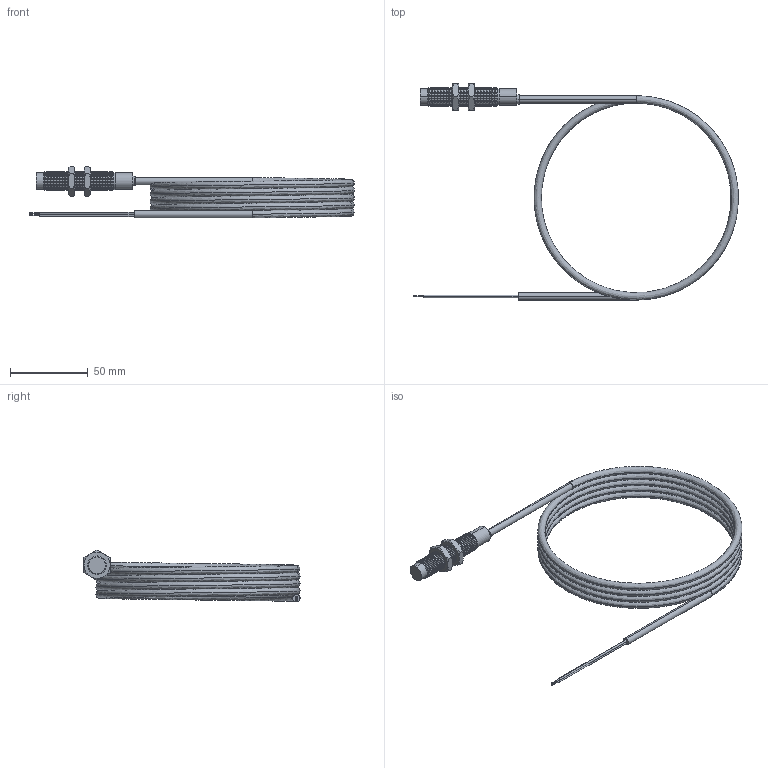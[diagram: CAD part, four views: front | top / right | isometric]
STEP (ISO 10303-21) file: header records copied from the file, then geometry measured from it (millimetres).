
FILE_DESCRIPTION (( 'STEP AP203' ), '1' );
FILE_NAME ('90-XXXX-013.STEP', '2015-10-28T13:12:39', ( 'Sam' ), ( 'Spade' ), 'SwSTEP 2.0', 'SolidWorks 2002296', '' );
FILE_SCHEMA (( 'CONFIG_CONTROL_DESIGN' ));
Length unit declared in the file: inch
Products named in the file (13): 90-XXXX-013; Imported120; Imported119; Imported127; Imported126; Imported125; Imported121; Imported129; Imported130; Imported123; Imported124; Imported128; Imported122
Assembly tree (12 placements, depth 2):
  90-XXXX-013
    Imported122
    Imported124
    Imported128
    Imported119
    Imported129
    Imported123
    Imported126
    Imported125
    Imported121
    Imported120
    Imported130
    Imported127
Bounding box: 209.36 x 139.31 x 33.35 mm (x, y, z)
Volume: 41795.7 mm3; surface area: 34913 mm2
Topology: 12 solids, 12 shells, 413 faces, 814 edges, 428 vertices
Faces by surface type: cone 246, cylinder 116, plane 39, bspline 12
Entity records: 13328 total; most frequent: CARTESIAN_POINT 3403, DIRECTION 1998, ORIENTED_EDGE 1628, AXIS2_PLACEMENT_3D 824, EDGE_CURVE 814, VERTEX_POINT 428, EDGE_LOOP 420, FACE_OUTER_BOUND 413
